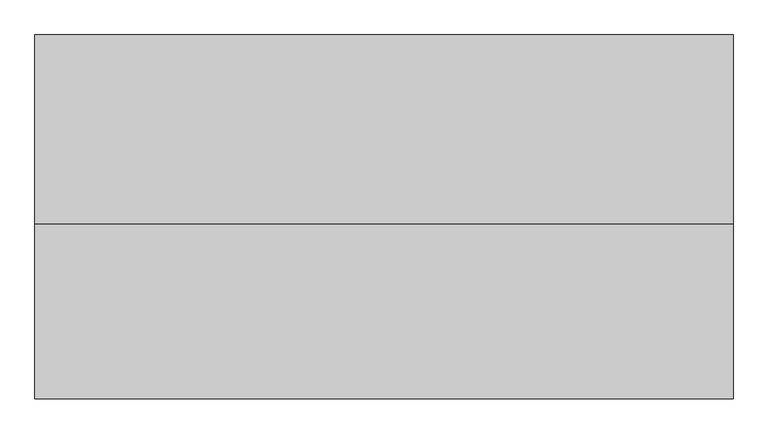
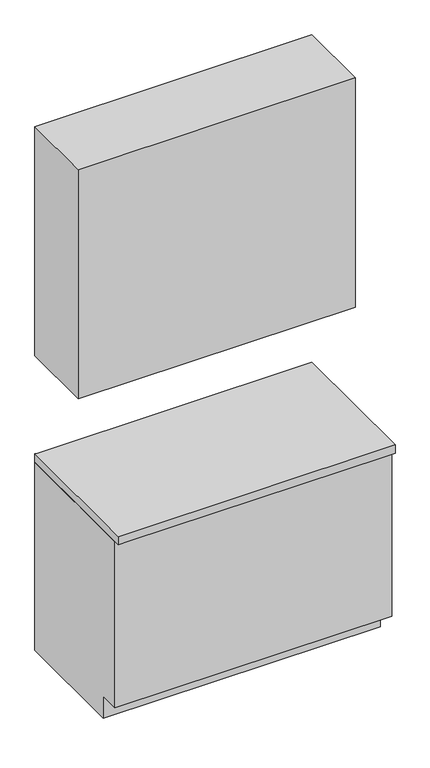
"""IFC4 building model written with IfcOpenShell, lengths in millimetres: furniture geometry, Casework Schematic - Base and Upper : Casework Schematic."""

from ifc_helpers import new_model, si_unit, frame, origin, place, context, project, spatial, polyline, outline, extrude, faceted_brep, source, transform, mapped, element, save


def furniture_ee69a057(model_context):
    return source(origin(), model_context, "Body", "SolidModel", [
        extrude(outline(polyline([(0.0, 0.0), (1219.2, 0.0), (1219.2, -330.2), (0.0, -330.2), (0.0, 0.0)])), frame((0.0, 0.0, 1371.6), z_axis=(0.0, 0.0, 1.0), x_axis=(1.0, 0.0, 0.0)), (0.0, 0.0, 1.0), 1066.8),
        extrude(outline(polyline([(0.0, 876.3), (0.0, 0.0), (-520.7, 0.0), (-520.7, 101.6), (-609.6, 101.6), (-609.6, 876.3), (0.0, 876.3)])), frame((0.0, 0.0, 0.0), z_axis=(1.0, 0.0, 0.0), x_axis=(0.0, 1.0, 0.0)), (0.0, 0.0, 1.0), 1219.2),
        faceted_brep([(1219.2, 0.0, 876.3), (1219.2, -12.7, 876.3), (1219.2, -635.0, 876.3), (1206.5, -635.0, 876.3), (1181.1, -635.0, 876.3), (38.1, -635.0, 876.3), (12.7, -635.0, 876.3), (0.0, -635.0, 876.3), (0.0, -12.7, 876.3), (0.0, 0.0, 876.3), (12.7, 0.0, 876.3), (38.1, 0.0, 876.3), (1181.1, 0.0, 876.3), (1206.5, 0.0, 876.3), (1219.2, -635.0, 914.4), (1219.2, -12.7, 914.4), (1219.2, 0.0, 914.4), (1206.5, 0.0, 914.4), (12.7, 0.0, 914.4), (0.0, 0.0, 914.4), (0.0, -12.7, 914.4), (0.0, -635.0, 914.4), (12.7, -635.0, 914.4), (1206.5, -635.0, 914.4), (1219.2, -635.0, 889.0), (0.0, -635.0, 889.0), (0.0, 0.0, 889.0), (1219.2, 0.0, 889.0)], [[[0, 1, 2, 3, 4, 5, 6, 7, 8, 9, 10, 11, 12, 13]], [[14, 15, 16, 17, 18, 19, 20, 21, 22, 23]], [[2, 24, 14, 23, 22, 21, 25, 7, 6, 5, 4, 3]], [[8, 7, 25, 21, 20, 19, 26, 9]], [[13, 12, 11, 10, 9, 26, 19, 18, 17, 16, 27, 0]], [[27, 16, 15, 14, 24, 2, 1, 0]]]),
    ])


if __name__ == "__main__":
    model = new_model("IFC4")
    model_context = context("Model", 3, world=origin())
    ifc_project = project(units=[si_unit("LENGTHUNIT", "METRE", prefix="MILLI")], contexts=[model_context])
    site = spatial("IfcSite", under=ifc_project)
    building = spatial("IfcBuilding", under=site)
    placement = place(None, origin())
    furniture_shape = furniture_ee69a057(model_context)
    element("IfcFurniture", 1, ObjectType="Casework Schematic - Base and Upper : Casework Schematic", at=placement, inside=building, context=model_context, shape_type="MappedRepresentation", body=[
        mapped(furniture_shape, transform((0.0, 0.0, 0.0), x_axis=(1.0, 0.0, 0.0), y_axis=(0.0, 1.0, 0.0), z_axis=(0.0, 0.0, 1.0))),
    ])
    save(model, "model.ifc")
